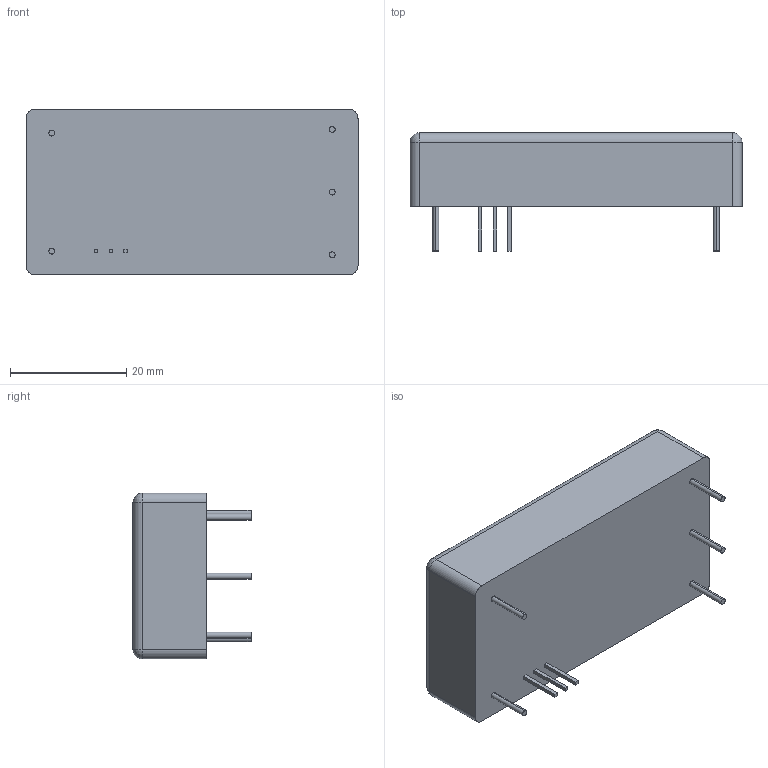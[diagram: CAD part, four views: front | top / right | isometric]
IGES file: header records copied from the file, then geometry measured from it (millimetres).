
Start section: SolidWorks IGES file using analytic representation for surfaces
Global section: file name: C:\Users\jmoua\Desktop\Drawings\08-2016\8-23\redlines\approved\XP EMCO FS.IGS; native system: SolidWorks 2014; preprocessor: SolidWorks 2014; author: jmoua; date: 160824.115205; units: inch
Bounding box: 57.15 x 20.32 x 28.57 mm (x, y, z)
Surface area: 5579.1 mm2 (no closed solid volume)
Topology: 0 solids, 0 shells, 68 faces, 592 edges, 588 vertices
Faces by surface type: bspline 42, revolution 26
